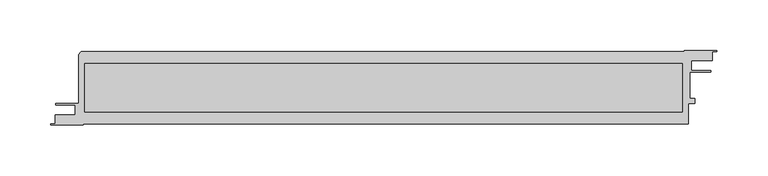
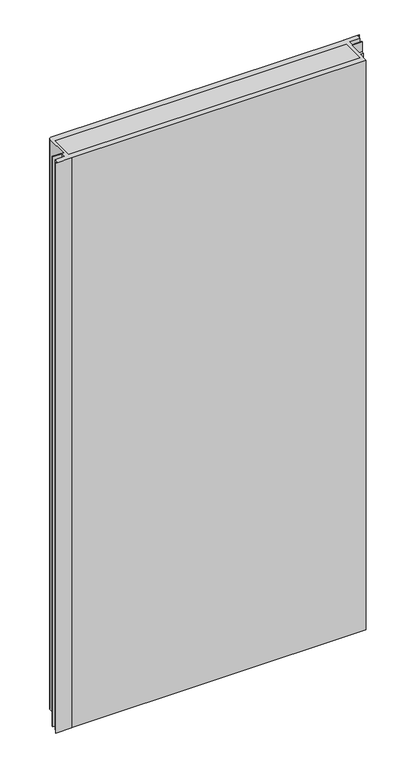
"""IFC4 building model written with IfcOpenShell, lengths in millimetres: plate geometry, Walls_External-Walls_Danpal_Danpatherm-K7-with-AIRPT-Frame : Walls_External-Walls_Danpal_Danpatherm-K7-with-AIRPT-Frame."""

from ifc_helpers import new_model, si_unit, point, frame, frame_2d, origin, place, context, project, spatial, polyline, circle_curve, trimmed, segment, composite_curve, outline, extrude, source, transform, mapped, element, save


def plate_df3c17a9(model_context):
    return source(origin(), model_context, "Body", "SweptSolid", [
        extrude(outline(polyline([(279.3176513, 12.7999917), (-309.4036211, 12.7999917), (-309.4036211, 60.3432727), (279.3176513, 60.3432727), (279.3176513, 12.7999917)])), frame((0.0, 0.0, -22.0), z_axis=(0.0, 0.0, 1.0), x_axis=(1.0, 0.0, 0.0)), (0.0, 0.0, 1.0), 1216.459327),
        extrude(outline(composite_curve([segment(polyline([(307.1570352, 53.4717617), (307.1570352, 52.1717185), (286.2570144, 52.1717185), (286.2570144, 26.0716456), (291.2570149, 26.0716456), (291.2570149, 20.9715623), (284.9570149, 20.9715623), (284.9570149, 0.8), (-310.7429914, 0.8), (-310.7429914, 0.0), (-342.6429914, 0.0), (-342.6429914, 0.8), (-338.4429914, 0.8), (-338.4429914, 9.7656785), (-318.6132316, 9.7656785), (-318.6132316, 19.6715177), (-337.5693772, 19.6715177), (-337.5693772, 20.9715623), (-315.0, 20.9715623), (-315.0, 68.5003761)]), True, "CONTINUOUS"), segment(trimmed(circle_curve(frame_2d((-311.1570911, 68.5003761)), 3.8429089), [point((-315.0, 68.5003761))], [point((-311.1570911, 72.343285))], False, "CARTESIAN"), True, "CONTINUOUS"), segment(polyline([(-311.1570911, 72.343285), (281.0568579, 72.343285), (281.0568579, 73.143285), (312.9568579, 73.143285), (312.9568579, 72.343285), (308.6568579, 72.343285), (308.6568579, 63.4717658), (287.7588048, 63.4717658), (287.7588048, 53.4717617), (307.1570352, 53.4717617)]), True, "CONTINUOUS")], self_intersect=False), holes=[polyline([(279.3176513, 12.7999917), (279.3176513, 60.3432727), (-309.4036211, 60.3432727), (-309.4036211, 12.7999917), (279.3176513, 12.7999917)])]), frame((0.0, 0.0, -22.0), z_axis=(0.0, 0.0, 1.0), x_axis=(1.0, 0.0, 0.0)), (0.0, 0.0, 1.0), 1216.459327),
    ])


if __name__ == "__main__":
    model = new_model("IFC4")
    model_context = context("Model", 3, world=origin())
    ifc_project = project(units=[si_unit("LENGTHUNIT", "METRE", prefix="MILLI")], contexts=[model_context])
    site = spatial("IfcSite", under=ifc_project)
    building = spatial("IfcBuilding", under=site)
    placement = place(None, origin())
    plate_shape = plate_df3c17a9(model_context)
    element("IfcPlate", 1, ObjectType="Walls_External-Walls_Danpal_Danpatherm-K7-with-AIRPT-Frame : Walls_External-Walls_Danpal_Danpatherm-K7-with-AIRPT-Frame", at=placement, inside=building, context=model_context, shape_type="MappedRepresentation", body=[
        mapped(plate_shape, transform((0.0, 0.0, 0.0), x_axis=(1.0, 0.0, 0.0), y_axis=(0.0, 1.0, 0.0), z_axis=(0.0, 0.0, 1.0))),
    ])
    save(model, "model.ifc")
